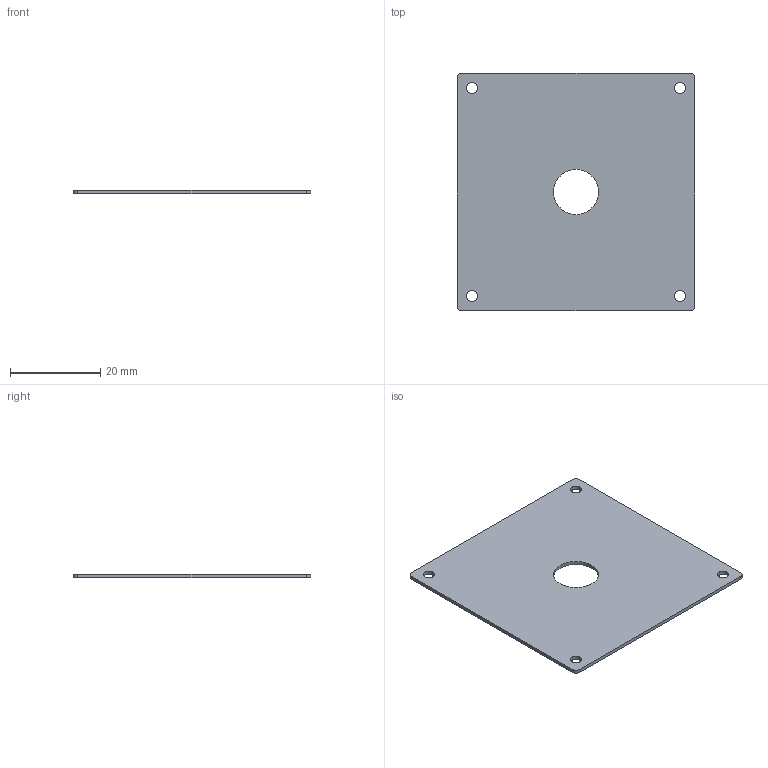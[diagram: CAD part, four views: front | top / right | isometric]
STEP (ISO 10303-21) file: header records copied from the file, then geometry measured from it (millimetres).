
FILE_DESCRIPTION (( 'STEP AP214' ), '1' );
FILE_NAME ('LSQ-45-050-1-POLARIZER.STEP', '2021-11-05T01:45:26', ( '' ), ( '' ), 'SwSTEP 2.0', 'SolidWorks 2021', '' );
FILE_SCHEMA (( 'AUTOMOTIVE_DESIGN' ));
Length unit declared in the file: millimetre
Products named in the file (1): LSQ-45-050-1-POLARIZER
Bounding box: 52.5 x 52.5 x 0.8 mm (x, y, z)
Volume: 2125.8 mm3; surface area: 5531.3 mm2
Topology: 1 solids, 1 shells, 20 faces, 54 edges, 36 vertices
Faces by surface type: cylinder 14, plane 6
Entity records: 700 total; most frequent: DIRECTION 124, CARTESIAN_POINT 111, ORIENTED_EDGE 108, EDGE_CURVE 54, AXIS2_PLACEMENT_3D 49, VERTEX_POINT 36, EDGE_LOOP 30, CIRCLE 28
